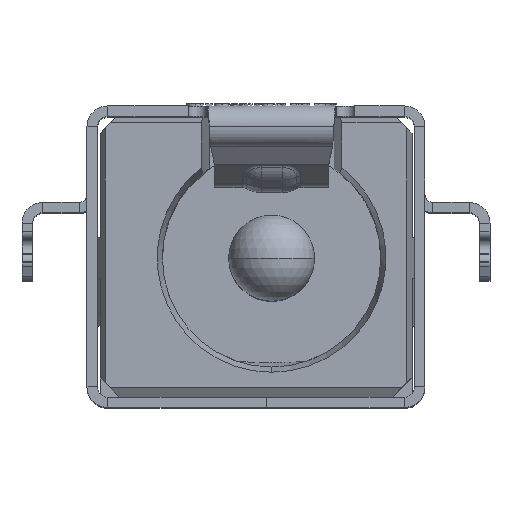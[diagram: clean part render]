
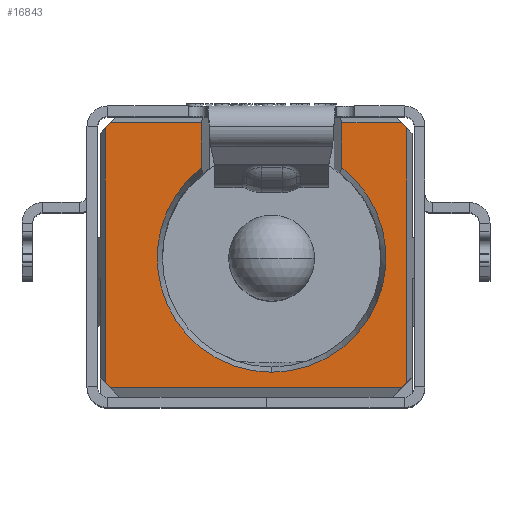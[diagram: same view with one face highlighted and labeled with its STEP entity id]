
A CAD part, top view. The second image highlights one B-rep face of the part: STEP entity #16843.
In plain terms, the highlighted planar face has unit normal (0, 0, 1).
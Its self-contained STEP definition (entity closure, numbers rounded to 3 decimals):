
#134 = EDGE_CURVE ( 'NONE', #17908, #4309, #19560, .T. ) ;
#508 = DIRECTION ( 'NONE',  ( 1., 0., 0. ) ) ;
#1516 = VECTOR ( 'NONE', #23880, 1000. ) ;
#1533 = VERTEX_POINT ( 'NONE', #23523 ) ;
#1720 = CARTESIAN_POINT ( 'NONE',  ( -3.1, -2.5, 11. ) ) ;
#2028 = CARTESIAN_POINT ( 'NONE',  ( -3.1, -2.5, 11. ) ) ;
#2202 = CARTESIAN_POINT ( 'NONE',  ( -3.2, 2.5, 11. ) ) ;
#2420 = DIRECTION ( 'NONE',  ( 0.614, 0.79, 0. ) ) ;
#3285 = ORIENTED_EDGE ( 'NONE', *, *, #15318, .F. ) ;
#3297 = CIRCLE ( 'NONE', #20254, 2.2 ) ;
#3582 = VERTEX_POINT ( 'NONE', #7955 ) ;
#3648 = CARTESIAN_POINT ( 'NONE',  ( 1.35, 2.6, 11. ) ) ;
#3688 = LINE ( 'NONE', #12495, #16797 ) ;
#3844 = ORIENTED_EDGE ( 'NONE', *, *, #29145, .T. ) ;
#4164 = CARTESIAN_POINT ( 'NONE',  ( 2.6, -2.4, 11. ) ) ;
#4276 = VECTOR ( 'NONE', #4639, 1000. ) ;
#4309 = VERTEX_POINT ( 'NONE', #24443 ) ;
#4639 = DIRECTION ( 'NONE',  ( 0., 1., 0. ) ) ;
#4649 = LINE ( 'NONE', #2202, #10882 ) ;
#4706 = EDGE_CURVE ( 'NONE', #25561, #4727, #30002, .T. ) ;
#4727 = VERTEX_POINT ( 'NONE', #23177 ) ;
#5101 = CARTESIAN_POINT ( 'NONE',  ( 2.5, 2.6, 11. ) ) ;
#5701 = EDGE_CURVE ( 'NONE', #10238, #25561, #26927, .T. ) ;
#5717 = CARTESIAN_POINT ( 'NONE',  ( 0., 0., 11. ) ) ;
#5748 = LINE ( 'NONE', #14704, #12453 ) ;
#6445 = DIRECTION ( 'NONE',  ( 0.707, 0.707, 0. ) ) ;
#6471 = CARTESIAN_POINT ( 'NONE',  ( -3.2, 2.5, 11. ) ) ;
#6836 = CARTESIAN_POINT ( 'NONE',  ( -3.2, 2.5, 11. ) ) ;
#6853 = CARTESIAN_POINT ( 'NONE',  ( 2.6, -2.4, 11. ) ) ;
#7236 = CARTESIAN_POINT ( 'NONE',  ( 0., -2.2, 11. ) ) ;
#7905 = VERTEX_POINT ( 'NONE', #15832 ) ;
#7955 = CARTESIAN_POINT ( 'NONE',  ( -1.35, 1.737, 11. ) ) ;
#9040 = CIRCLE ( 'NONE', #19253, 2.2 ) ;
#9217 = CARTESIAN_POINT ( 'NONE',  ( -1.35, 2.6, 11. ) ) ;
#9236 = DIRECTION ( 'NONE',  ( 0., 0., -1. ) ) ;
#9242 = CARTESIAN_POINT ( 'NONE',  ( -3.2, -2.4, 11. ) ) ;
#9392 = CARTESIAN_POINT ( 'NONE',  ( 2.6, 2.5, 11. ) ) ;
#9437 = EDGE_CURVE ( 'NONE', #13998, #3582, #9040, .T. ) ;
#9480 = AXIS2_PLACEMENT_3D ( 'NONE', #21151, #21316, #508 ) ;
#9837 = CARTESIAN_POINT ( 'NONE',  ( 0., 0., 11. ) ) ;
#10238 = VERTEX_POINT ( 'NONE', #9242 ) ;
#10415 = ORIENTED_EDGE ( 'NONE', *, *, #19811, .T. ) ;
#10727 = DIRECTION ( 'NONE',  ( -0.707, 0.707, 0. ) ) ;
#10882 = VECTOR ( 'NONE', #6445, 1000. ) ;
#11146 = VECTOR ( 'NONE', #27827, 1000. ) ;
#11290 = DIRECTION ( 'NONE',  ( 0.614, 0.79, 0. ) ) ;
#11911 = EDGE_CURVE ( 'NONE', #1533, #13998, #3297, .T. ) ;
#12074 = LINE ( 'NONE', #5101, #28128 ) ;
#12233 = EDGE_CURVE ( 'NONE', #22606, #17908, #16302, .T. ) ;
#12428 = CARTESIAN_POINT ( 'NONE',  ( 2.6, 2.5, 11. ) ) ;
#12453 = VECTOR ( 'NONE', #19550, 1000. ) ;
#12495 = CARTESIAN_POINT ( 'NONE',  ( 2.6, -2.4, 11. ) ) ;
#13226 = CARTESIAN_POINT ( 'NONE',  ( -3.2, -2.4, 11. ) ) ;
#13931 = ORIENTED_EDGE ( 'NONE', *, *, #4706, .T. ) ;
#13998 = VERTEX_POINT ( 'NONE', #7236 ) ;
#14580 = CARTESIAN_POINT ( 'NONE',  ( 1.35, 2.6, 11. ) ) ;
#14704 = CARTESIAN_POINT ( 'NONE',  ( -1.35, 2.6, 11. ) ) ;
#15318 = EDGE_CURVE ( 'NONE', #17327, #7905, #4649, .T. ) ;
#15619 = ORIENTED_EDGE ( 'NONE', *, *, #134, .T. ) ;
#15832 = CARTESIAN_POINT ( 'NONE',  ( -3.1, 2.6, 11. ) ) ;
#15902 = ORIENTED_EDGE ( 'NONE', *, *, #5701, .T. ) ;
#16302 = LINE ( 'NONE', #4164, #4276 ) ;
#16788 = ORIENTED_EDGE ( 'NONE', *, *, #21785, .T. ) ;
#16797 = VECTOR ( 'NONE', #27095, 1000. ) ;
#16843 = ADVANCED_FACE ( 'NONE', ( #28306 ), #21613, .T. ) ;
#16921 = DIRECTION ( 'NONE',  ( -1., 0., 0. ) ) ;
#17327 = VERTEX_POINT ( 'NONE', #6471 ) ;
#17533 = ORIENTED_EDGE ( 'NONE', *, *, #11911, .T. ) ;
#17645 = VECTOR ( 'NONE', #17770, 1000. ) ;
#17770 = DIRECTION ( 'NONE',  ( 0.707, -0.707, 0. ) ) ;
#17908 = VERTEX_POINT ( 'NONE', #9392 ) ;
#18388 = LINE ( 'NONE', #6836, #11146 ) ;
#18480 = EDGE_LOOP ( 'NONE', ( #27400, #3844, #3285, #10415, #15902, #13931, #27181, #21493, #15619, #27965, #16788, #17533, #26155 ) ) ;
#18732 = VERTEX_POINT ( 'NONE', #9217 ) ;
#18956 = CARTESIAN_POINT ( 'NONE',  ( -1.35, 2.6, 11. ) ) ;
#19111 = EDGE_CURVE ( 'NONE', #4309, #27075, #12074, .T. ) ;
#19253 = AXIS2_PLACEMENT_3D ( 'NONE', #5717, #30014, #11290 ) ;
#19390 = VECTOR ( 'NONE', #10727, 1000. ) ;
#19550 = DIRECTION ( 'NONE',  ( 0., -1., 0. ) ) ;
#19560 = LINE ( 'NONE', #12428, #19390 ) ;
#19811 = EDGE_CURVE ( 'NONE', #17327, #10238, #18388, .T. ) ;
#20254 = AXIS2_PLACEMENT_3D ( 'NONE', #9837, #9236, #2420 ) ;
#21151 = CARTESIAN_POINT ( 'NONE',  ( 0., 0., 11. ) ) ;
#21247 = LINE ( 'NONE', #18956, #22734 ) ;
#21316 = DIRECTION ( 'NONE',  ( 0., 0., 1. ) ) ;
#21493 = ORIENTED_EDGE ( 'NONE', *, *, #12233, .T. ) ;
#21613 = PLANE ( 'NONE',  #9480 ) ;
#21785 = EDGE_CURVE ( 'NONE', #27075, #1533, #28422, .T. ) ;
#22606 = VERTEX_POINT ( 'NONE', #6853 ) ;
#22734 = VECTOR ( 'NONE', #28690, 1000. ) ;
#23022 = DIRECTION ( 'NONE',  ( 1., 0., 0. ) ) ;
#23177 = CARTESIAN_POINT ( 'NONE',  ( 2.5, -2.5, 11. ) ) ;
#23523 = CARTESIAN_POINT ( 'NONE',  ( 1.35, 1.737, 11. ) ) ;
#23880 = DIRECTION ( 'NONE',  ( 0., -1., 0. ) ) ;
#24443 = CARTESIAN_POINT ( 'NONE',  ( 2.5, 2.6, 11. ) ) ;
#24901 = VECTOR ( 'NONE', #23022, 1000. ) ;
#24971 = EDGE_CURVE ( 'NONE', #22606, #4727, #3688, .T. ) ;
#25561 = VERTEX_POINT ( 'NONE', #1720 ) ;
#25758 = EDGE_CURVE ( 'NONE', #18732, #3582, #5748, .T. ) ;
#26155 = ORIENTED_EDGE ( 'NONE', *, *, #9437, .T. ) ;
#26927 = LINE ( 'NONE', #13226, #17645 ) ;
#27075 = VERTEX_POINT ( 'NONE', #3648 ) ;
#27095 = DIRECTION ( 'NONE',  ( -0.707, -0.707, 0. ) ) ;
#27181 = ORIENTED_EDGE ( 'NONE', *, *, #24971, .F. ) ;
#27400 = ORIENTED_EDGE ( 'NONE', *, *, #25758, .F. ) ;
#27827 = DIRECTION ( 'NONE',  ( 0., -1., 0. ) ) ;
#27965 = ORIENTED_EDGE ( 'NONE', *, *, #19111, .T. ) ;
#28128 = VECTOR ( 'NONE', #16921, 1000. ) ;
#28306 = FACE_OUTER_BOUND ( 'NONE', #18480, .T. ) ;
#28422 = LINE ( 'NONE', #14580, #1516 ) ;
#28690 = DIRECTION ( 'NONE',  ( -1., 0., 0. ) ) ;
#29145 = EDGE_CURVE ( 'NONE', #18732, #7905, #21247, .T. ) ;
#30002 = LINE ( 'NONE', #2028, #24901 ) ;
#30014 = DIRECTION ( 'NONE',  ( 0., 0., -1. ) ) ;
